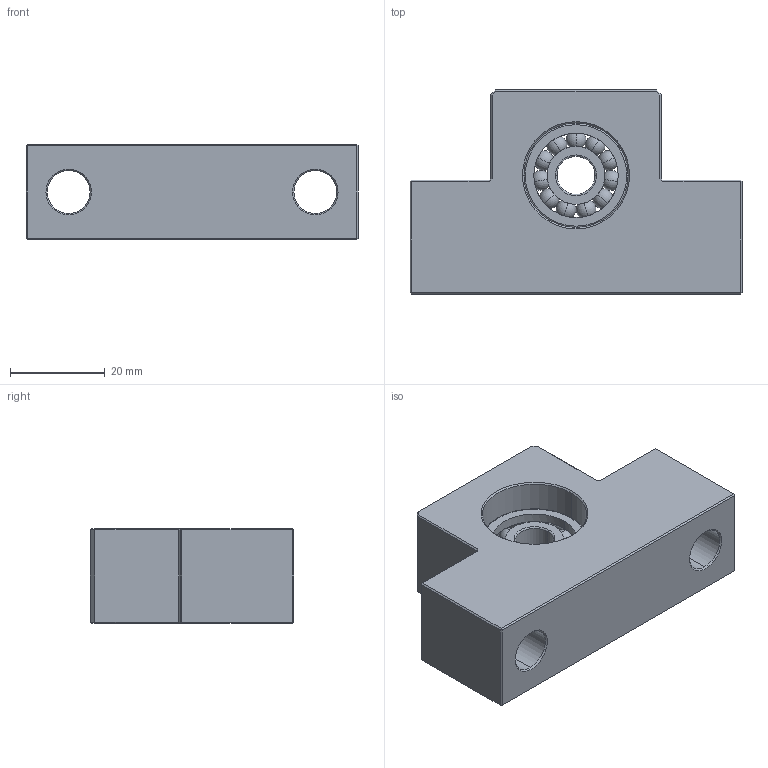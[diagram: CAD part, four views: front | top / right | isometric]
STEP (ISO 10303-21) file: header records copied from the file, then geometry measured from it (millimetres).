
FILE_DESCRIPTION (( 'STEP AP214' ), '1' );
FILE_NAME ('2.4010 Kuularuuvin tukilaakeri EF10.STEP', '2024-05-07T06:17:28', ( '' ), ( '' ), 'SwSTEP 2.0', 'SolidWorks 2024', '' );
FILE_SCHEMA (( 'AUTOMOTIVE_DESIGN' ));
Length unit declared in the file: millimetre
Products named in the file (1): 2.4010 Kuularuuvin tukilaakeri EF10
Bounding box: 70 x 43 x 20 mm (x, y, z)
Volume: 38243.3 mm3; surface area: 13041.7 mm2
Topology: 2 solids, 2 shells, 172 faces, 543 edges, 311 vertices
Faces by surface type: plane 54, torus 44, sphere 44, cylinder 18, cone 12
Entity records: 7504 total; most frequent: CARTESIAN_POINT 2523, ORIENTED_EDGE 954, DIRECTION 814, EDGE_CURVE 477, AXIS2_PLACEMENT_3D 340, VERTEX_POINT 289, EDGE_LOOP 182, B_SPLINE_CURVE_WITH_KNOTS 176
